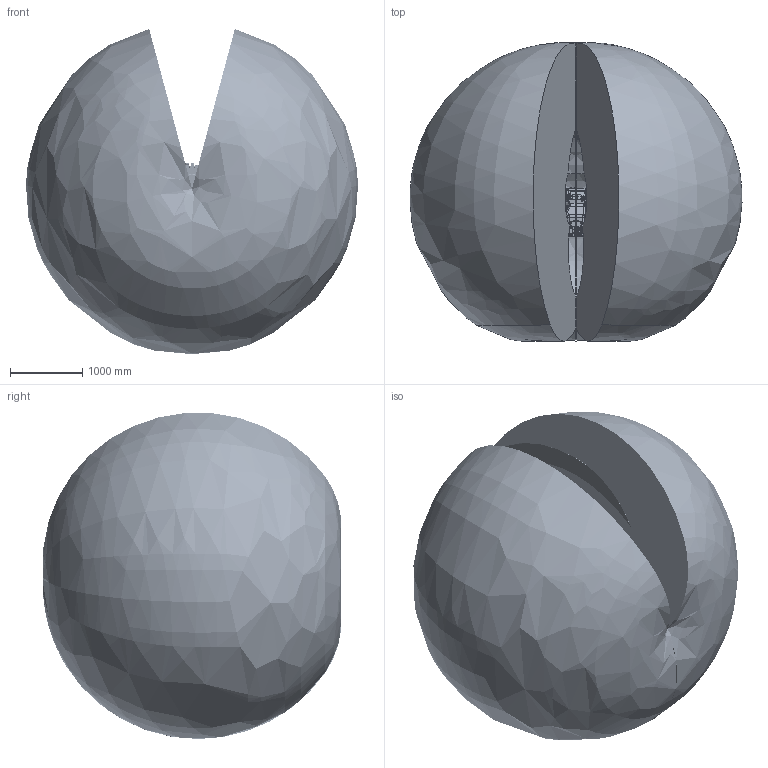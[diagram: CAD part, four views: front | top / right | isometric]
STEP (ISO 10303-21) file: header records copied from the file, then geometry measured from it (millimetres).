
FILE_DESCRIPTION((''),'2;1');
FILE_NAME('R12-2300_ASM','2024-05-07T14:26:24',('Administrator'),(''),'CREO PARAMETRIC BY PTC INC, 2018260','CREO PARAMETRIC BY PTC INC, 2018260','');
FILE_SCHEMA(('CONFIG_CONTROL_DESIGN','SHAPE_APPEARANCE_LAYERS_GROUPS'));
Products named in the file (11): R12-2300_BASE; R12-2300_JOINT1; R12-2300_JOINT2; R12-2300_JOINT3; R12-2300_JOINT4; R12-2300_JOINT5; R12-2300_JOINT6; R12-2300_CABLE; R12-2300_RANGE1; R12-2300_RANGE2; R12-2300_ASM
Assembly tree (10 placements, depth 2):
  R12-2300_ASM
    R12-2300_BASE
    R12-2300_JOINT1
    R12-2300_JOINT2
    R12-2300_JOINT3
    R12-2300_JOINT4
    R12-2300_JOINT5
    R12-2300_JOINT6
    R12-2300_CABLE
    R12-2300_RANGE1
    R12-2300_RANGE2
Bounding box: 4606.88 x 4147 x 4524.39 mm (x, y, z)
Volume: 43693317734.2 mm3; surface area: 100824846.2 mm2
Topology: 9 solids, 215 shells, 9628 faces, 23957 edges, 14597 vertices
Faces by surface type: cylinder 3096, bspline 2268, plane 2190, torus 1335, cone 634, sphere 103, extrusion 2
Entity records: 394466 total; most frequent: CARTESIAN_POINT 182301, ORIENTED_EDGE 46493, DIRECTION 41093, EDGE_CURVE 23715, AXIS2_PLACEMENT_3D 16856, VERTEX_POINT 14597, EDGE_LOOP 10201, FACE_OUTER_BOUND 9628
